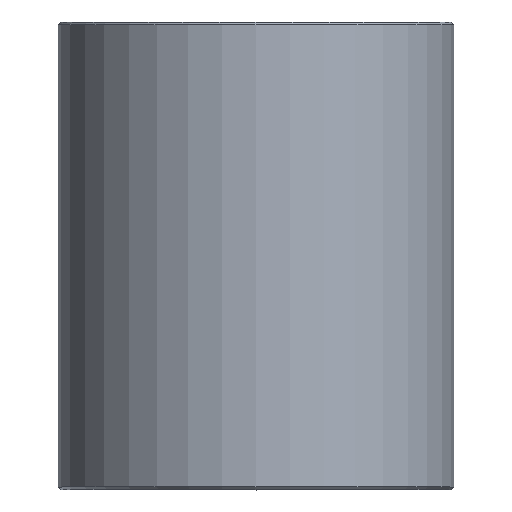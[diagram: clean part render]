
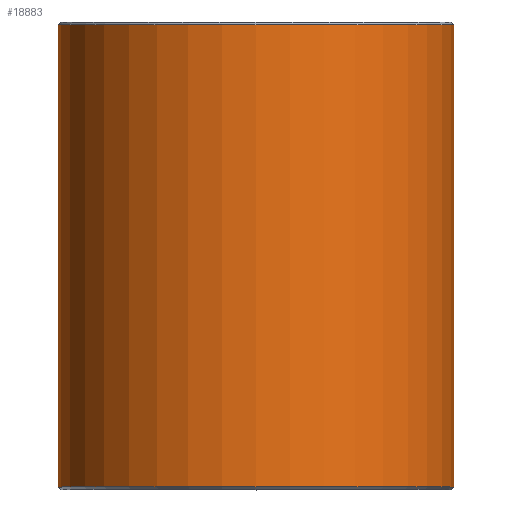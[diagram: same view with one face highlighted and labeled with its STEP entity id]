
A CAD part, top view. The second image highlights one B-rep face of the part: STEP entity #18883.
In plain terms, the highlighted cylindrical face has radius 15.25 mm (diameter 30.5 mm), a partial arc.
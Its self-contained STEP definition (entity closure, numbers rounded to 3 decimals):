
#8518=CARTESIAN_POINT('',(0.,0.2,0.));
#8519=DIRECTION('',(0.,-1.,0.));
#8520=DIRECTION('',(1.,0.,0.));
#8521=AXIS2_PLACEMENT_3D('',#8518,#8519,#8520);
#8523=DIRECTION('',(0.,1.,0.));
#8524=VECTOR('',#8523,35.6);
#8525=CARTESIAN_POINT('',(-15.25,0.2,
0.));
#8526=LINE('',#8525,#8524);
#8527=CARTESIAN_POINT('',(0.,35.8,0.));
#8528=DIRECTION('',(0.,1.,0.));
#8529=DIRECTION('',(-1.,0.,0.));
#8530=AXIS2_PLACEMENT_3D('',#8527,#8528,#8529);
#8545=DIRECTION('',(0.,1.,0.));
#8546=VECTOR('',#8545,35.6);
#8547=CARTESIAN_POINT('',(15.25,0.2,
0.));
#8548=LINE('',#8547,#8546);
#8725=CARTESIAN_POINT('',(-15.25,0.2,0.));
#8726=CARTESIAN_POINT('',(15.25,0.2,0.));
#8727=VERTEX_POINT('',#8725);
#8728=VERTEX_POINT('',#8726);
#8733=CARTESIAN_POINT('',(15.25,35.8,0.));
#8734=CARTESIAN_POINT('',(-15.25,35.8,0.));
#8735=VERTEX_POINT('',#8733);
#8736=VERTEX_POINT('',#8734);
#18869=CARTESIAN_POINT('',(0.,0.,0.));
#18870=DIRECTION('',(0.,1.,0.));
#18871=DIRECTION('',(1.,0.,0.));
#18872=AXIS2_PLACEMENT_3D('',#18869,#18870,#18871);
#18873=CYLINDRICAL_SURFACE('',#18872,15.25);
#18875=ORIENTED_EDGE('',*,*,#18874,.T.);
#18877=ORIENTED_EDGE('',*,*,#18876,.T.);
#18878=ORIENTED_EDGE('',*,*,#18863,.T.);
#18880=ORIENTED_EDGE('',*,*,#18879,.F.);
#18881=EDGE_LOOP('',(#18875,#18877,#18878,#18880));
#18882=FACE_OUTER_BOUND('',#18881,.F.);
#18883=ADVANCED_FACE('',(#18882),#18873,.T.);
#8522=CIRCLE('',#8521,15.25);
#8531=CIRCLE('',#8530,15.25);
#18863=EDGE_CURVE('',#8736,#8735,#8531,.T.);
#18874=EDGE_CURVE('',#8728,#8727,#8522,.T.);
#18876=EDGE_CURVE('',#8727,#8736,#8526,.T.);
#18879=EDGE_CURVE('',#8728,#8735,#8548,.T.);
